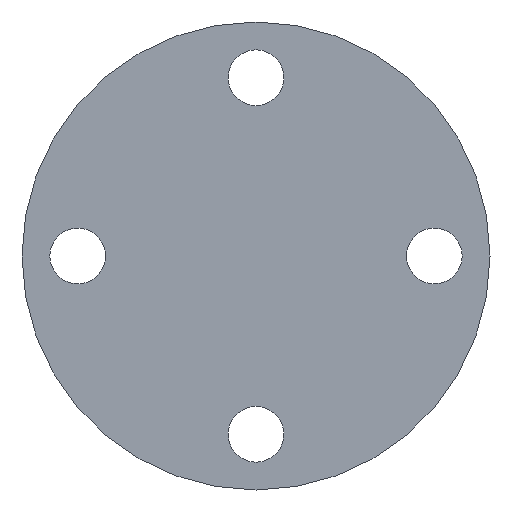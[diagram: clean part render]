
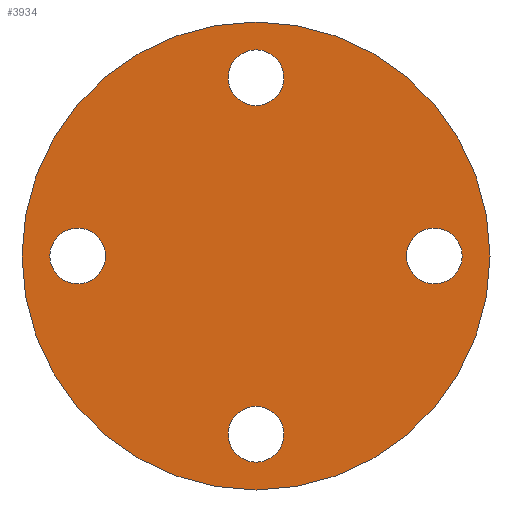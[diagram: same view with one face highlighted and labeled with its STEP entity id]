
A CAD part, front view. The second image highlights one B-rep face of the part: STEP entity #3934.
In plain terms, the highlighted planar face has unit normal (0, -1, 0).
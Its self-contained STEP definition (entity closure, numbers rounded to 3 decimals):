
#73 = AXIS2_PLACEMENT_3D ( 'NONE', #2376, #2672, #1005 ) ;
#163 = AXIS2_PLACEMENT_3D ( 'NONE', #1903, #1863, #4170 ) ;
#196 = DIRECTION ( 'NONE',  ( 0., -1., 0. ) ) ;
#284 = CIRCLE ( 'NONE', #3255, 10.5 ) ;
#291 = ORIENTED_EDGE ( 'NONE', *, *, #677, .F. ) ;
#300 = CARTESIAN_POINT ( 'NONE',  ( 0., 0., 0. ) ) ;
#339 = DIRECTION ( 'NONE',  ( 0., 0., -1. ) ) ;
#448 = EDGE_LOOP ( 'NONE', ( #2553, #2048 ) ) ;
#461 = DIRECTION ( 'NONE',  ( 0., -1., 0. ) ) ;
#462 = CIRCLE ( 'NONE', #1771, 1.25 ) ;
#507 = VERTEX_POINT ( 'NONE', #2767 ) ;
#539 = AXIS2_PLACEMENT_3D ( 'NONE', #2158, #860, #1749 ) ;
#560 = DIRECTION ( 'NONE',  ( 0., 0., -1. ) ) ;
#624 = CIRCLE ( 'NONE', #73, 1.25 ) ;
#677 = EDGE_CURVE ( 'NONE', #1151, #1718, #462, .T. ) ;
#718 = CARTESIAN_POINT ( 'NONE',  ( 0., 0., -10.5 ) ) ;
#732 = ORIENTED_EDGE ( 'NONE', *, *, #2131, .F. ) ;
#802 = CARTESIAN_POINT ( 'NONE',  ( 8., 0., 0. ) ) ;
#845 = DIRECTION ( 'NONE',  ( 0., 0., -1. ) ) ;
#860 = DIRECTION ( 'NONE',  ( 0., -1., 0. ) ) ;
#882 = CARTESIAN_POINT ( 'NONE',  ( 0., 0., -8. ) ) ;
#907 = DIRECTION ( 'NONE',  ( 0., 0., -1. ) ) ;
#972 = CIRCLE ( 'NONE', #1538, 1.25 ) ;
#1005 = DIRECTION ( 'NONE',  ( 0., 0., -1. ) ) ;
#1040 = AXIS2_PLACEMENT_3D ( 'NONE', #3963, #1699, #339 ) ;
#1058 = ORIENTED_EDGE ( 'NONE', *, *, #4284, .F. ) ;
#1062 = DIRECTION ( 'NONE',  ( 0., 0., -1. ) ) ;
#1127 = FACE_OUTER_BOUND ( 'NONE', #448, .T. ) ;
#1151 = VERTEX_POINT ( 'NONE', #1974 ) ;
#1161 = CARTESIAN_POINT ( 'NONE',  ( 0., 0., 6.75 ) ) ;
#1199 = CIRCLE ( 'NONE', #2169, 1.25 ) ;
#1237 = EDGE_LOOP ( 'NONE', ( #3580, #1058 ) ) ;
#1247 = DIRECTION ( 'NONE',  ( 0., 0., -1. ) ) ;
#1263 = EDGE_LOOP ( 'NONE', ( #3457, #732 ) ) ;
#1312 = CARTESIAN_POINT ( 'NONE',  ( 0., 0., -8. ) ) ;
#1393 = VERTEX_POINT ( 'NONE', #4133 ) ;
#1416 = FACE_BOUND ( 'NONE', #1237, .T. ) ;
#1538 = AXIS2_PLACEMENT_3D ( 'NONE', #2166, #3866, #845 ) ;
#1573 = VERTEX_POINT ( 'NONE', #2263 ) ;
#1699 = DIRECTION ( 'NONE',  ( 0., -1., 0. ) ) ;
#1718 = VERTEX_POINT ( 'NONE', #2759 ) ;
#1736 = FACE_BOUND ( 'NONE', #1263, .T. ) ;
#1746 = EDGE_CURVE ( 'NONE', #1801, #1573, #3872, .T. ) ;
#1749 = DIRECTION ( 'NONE',  ( 0., 0., -1. ) ) ;
#1771 = AXIS2_PLACEMENT_3D ( 'NONE', #802, #196, #560 ) ;
#1801 = VERTEX_POINT ( 'NONE', #2223 ) ;
#1863 = DIRECTION ( 'NONE',  ( 0., 1., 0. ) ) ;
#1903 = CARTESIAN_POINT ( 'NONE',  ( 0., 0., 0. ) ) ;
#1948 = CARTESIAN_POINT ( 'NONE',  ( 0., 0., 9.25 ) ) ;
#1955 = AXIS2_PLACEMENT_3D ( 'NONE', #2081, #461, #3121 ) ;
#1974 = CARTESIAN_POINT ( 'NONE',  ( 8., 0., 1.25 ) ) ;
#1984 = DIRECTION ( 'NONE',  ( 0., -1., 0. ) ) ;
#2048 = ORIENTED_EDGE ( 'NONE', *, *, #3835, .T. ) ;
#2081 = CARTESIAN_POINT ( 'NONE',  ( -8., 0., 0. ) ) ;
#2131 = EDGE_CURVE ( 'NONE', #2885, #4288, #972, .T. ) ;
#2153 = CIRCLE ( 'NONE', #1040, 1.25 ) ;
#2158 = CARTESIAN_POINT ( 'NONE',  ( -8., 0., 0. ) ) ;
#2166 = CARTESIAN_POINT ( 'NONE',  ( 0., 0., 8. ) ) ;
#2169 = AXIS2_PLACEMENT_3D ( 'NONE', #882, #3506, #3200 ) ;
#2218 = EDGE_CURVE ( 'NONE', #2500, #1393, #4169, .T. ) ;
#2223 = CARTESIAN_POINT ( 'NONE',  ( -8., 0., -1.25 ) ) ;
#2233 = AXIS2_PLACEMENT_3D ( 'NONE', #4020, #3693, #1062 ) ;
#2263 = CARTESIAN_POINT ( 'NONE',  ( -8., 0., 1.25 ) ) ;
#2347 = EDGE_CURVE ( 'NONE', #1718, #1151, #624, .T. ) ;
#2376 = CARTESIAN_POINT ( 'NONE',  ( 8., 0., 0. ) ) ;
#2500 = VERTEX_POINT ( 'NONE', #3494 ) ;
#2553 = ORIENTED_EDGE ( 'NONE', *, *, #3188, .T. ) ;
#2672 = DIRECTION ( 'NONE',  ( 0., -1., 0. ) ) ;
#2759 = CARTESIAN_POINT ( 'NONE',  ( 8., 0., -1.25 ) ) ;
#2767 = CARTESIAN_POINT ( 'NONE',  ( 0., 0., 10.5 ) ) ;
#2769 = FACE_BOUND ( 'NONE', #3332, .T. ) ;
#2885 = VERTEX_POINT ( 'NONE', #1948 ) ;
#2933 = DIRECTION ( 'NONE',  ( 0., -1., 0. ) ) ;
#3121 = DIRECTION ( 'NONE',  ( 0., 0., -1. ) ) ;
#3188 = EDGE_CURVE ( 'NONE', #3837, #507, #284, .T. ) ;
#3200 = DIRECTION ( 'NONE',  ( 0., 0., -1. ) ) ;
#3255 = AXIS2_PLACEMENT_3D ( 'NONE', #300, #2933, #907 ) ;
#3332 = EDGE_LOOP ( 'NONE', ( #3893, #4087 ) ) ;
#3346 = EDGE_CURVE ( 'NONE', #4288, #2885, #2153, .T. ) ;
#3457 = ORIENTED_EDGE ( 'NONE', *, *, #3346, .F. ) ;
#3494 = CARTESIAN_POINT ( 'NONE',  ( 0., 0., -9.25 ) ) ;
#3506 = DIRECTION ( 'NONE',  ( 0., -1., 0. ) ) ;
#3580 = ORIENTED_EDGE ( 'NONE', *, *, #2218, .F. ) ;
#3693 = DIRECTION ( 'NONE',  ( 0., -1., 0. ) ) ;
#3779 = PLANE ( 'NONE',  #163 ) ;
#3835 = EDGE_CURVE ( 'NONE', #507, #3837, #4251, .T. ) ;
#3837 = VERTEX_POINT ( 'NONE', #718 ) ;
#3866 = DIRECTION ( 'NONE',  ( 0., -1., 0. ) ) ;
#3872 = CIRCLE ( 'NONE', #539, 1.25 ) ;
#3876 = ORIENTED_EDGE ( 'NONE', *, *, #2347, .F. ) ;
#3893 = ORIENTED_EDGE ( 'NONE', *, *, #1746, .F. ) ;
#3895 = EDGE_CURVE ( 'NONE', #1573, #1801, #3902, .T. ) ;
#3902 = CIRCLE ( 'NONE', #1955, 1.25 ) ;
#3934 = ADVANCED_FACE ( 'NONE', ( #1736, #4042, #1416, #2769, #1127 ), #3779, .F. ) ;
#3957 = AXIS2_PLACEMENT_3D ( 'NONE', #1312, #1984, #1247 ) ;
#3963 = CARTESIAN_POINT ( 'NONE',  ( 0., 0., 8. ) ) ;
#4020 = CARTESIAN_POINT ( 'NONE',  ( 0., 0., 0. ) ) ;
#4042 = FACE_BOUND ( 'NONE', #4105, .T. ) ;
#4087 = ORIENTED_EDGE ( 'NONE', *, *, #3895, .F. ) ;
#4105 = EDGE_LOOP ( 'NONE', ( #3876, #291 ) ) ;
#4133 = CARTESIAN_POINT ( 'NONE',  ( 0., 0., -6.75 ) ) ;
#4169 = CIRCLE ( 'NONE', #3957, 1.25 ) ;
#4170 = DIRECTION ( 'NONE',  ( 1., 0., 0. ) ) ;
#4251 = CIRCLE ( 'NONE', #2233, 10.5 ) ;
#4284 = EDGE_CURVE ( 'NONE', #1393, #2500, #1199, .T. ) ;
#4288 = VERTEX_POINT ( 'NONE', #1161 ) ;
